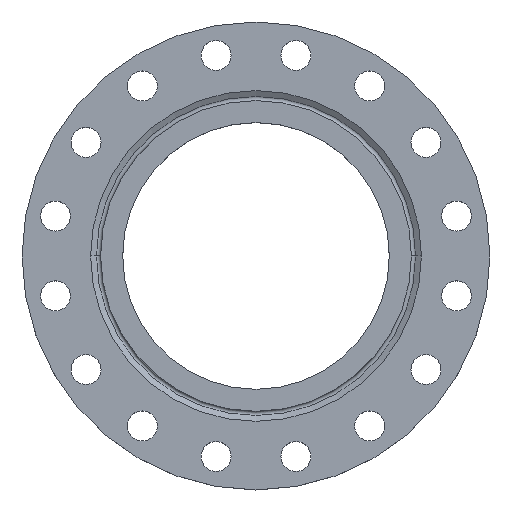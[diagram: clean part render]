
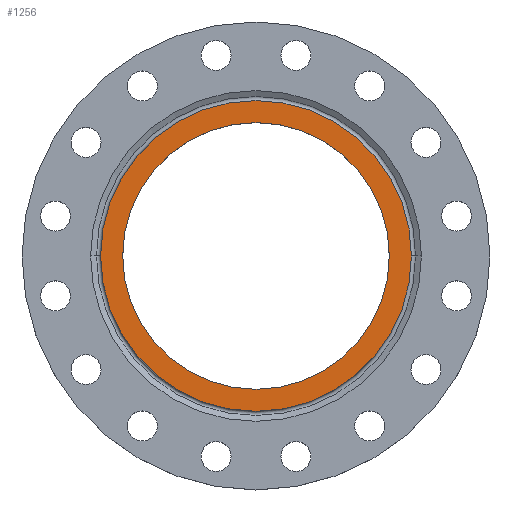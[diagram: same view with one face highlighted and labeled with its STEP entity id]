
A CAD part, top view. The second image highlights one B-rep face of the part: STEP entity #1256.
In plain terms, the highlighted planar face has unit normal (0, 0, 1).
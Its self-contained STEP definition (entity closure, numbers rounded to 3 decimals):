
#6 = CARTESIAN_POINT ( 'NONE',  ( -146.752, 0., 0. ) ) ;
#25 = CIRCLE ( 'NONE', #1102, 146.752 ) ;
#75 = CARTESIAN_POINT ( 'NONE',  ( 171., 0., 0. ) ) ;
#86 = AXIS2_PLACEMENT_3D ( 'NONE', #772, #767, #766 ) ;
#114 = DIRECTION ( 'NONE',  ( -1., 0., 0. ) ) ;
#115 = DIRECTION ( 'NONE',  ( 0., 0., -1. ) ) ;
#117 = CARTESIAN_POINT ( 'NONE',  ( 0., 0., 0. ) ) ;
#174 = EDGE_CURVE ( 'NONE', #1669, #543, #685, .T. ) ;
#217 = CARTESIAN_POINT ( 'NONE',  ( 146.752, 0., 0. ) ) ;
#348 = VERTEX_POINT ( 'NONE', #6 ) ;
#497 = AXIS2_PLACEMENT_3D ( 'NONE', #1540, #1538, #1535 ) ;
#518 = CIRCLE ( 'NONE', #1426, 171. ) ;
#543 = VERTEX_POINT ( 'NONE', #1594 ) ;
#546 = ORIENTED_EDGE ( 'NONE', *, *, #867, .F. ) ;
#561 = ORIENTED_EDGE ( 'NONE', *, *, #1226, .F. ) ;
#582 = EDGE_CURVE ( 'NONE', #1654, #348, #1265, .T. ) ;
#647 = ORIENTED_EDGE ( 'NONE', *, *, #174, .F. ) ;
#653 = ORIENTED_EDGE ( 'NONE', *, *, #582, .F. ) ;
#685 = CIRCLE ( 'NONE', #1383, 171. ) ;
#766 = DIRECTION ( 'NONE',  ( 1., 0., 0. ) ) ;
#767 = DIRECTION ( 'NONE',  ( 0., 0., 1. ) ) ;
#772 = CARTESIAN_POINT ( 'NONE',  ( 0., 0., 0. ) ) ;
#776 = PLANE ( 'NONE',  #86 ) ;
#777 = FACE_OUTER_BOUND ( 'NONE', #1038, .T. ) ;
#782 = FACE_BOUND ( 'NONE', #1040, .T. ) ;
#867 = EDGE_CURVE ( 'NONE', #543, #1669, #518, .T. ) ;
#882 = DIRECTION ( 'NONE',  ( 1., 0., 0. ) ) ;
#884 = DIRECTION ( 'NONE',  ( 0., 0., 1. ) ) ;
#890 = CARTESIAN_POINT ( 'NONE',  ( 0., 0., 0. ) ) ;
#1038 = EDGE_LOOP ( 'NONE', ( #546, #647 ) ) ;
#1040 = EDGE_LOOP ( 'NONE', ( #653, #561 ) ) ;
#1102 = AXIS2_PLACEMENT_3D ( 'NONE', #890, #884, #882 ) ;
#1226 = EDGE_CURVE ( 'NONE', #348, #1654, #25, .T. ) ;
#1256 = ADVANCED_FACE ( 'NONE', ( #782, #777 ), #776, .T. ) ;
#1265 = CIRCLE ( 'NONE', #497, 146.752 ) ;
#1285 = DIRECTION ( 'NONE',  ( -1., 0., 0. ) ) ;
#1286 = DIRECTION ( 'NONE',  ( 0., 0., -1. ) ) ;
#1289 = CARTESIAN_POINT ( 'NONE',  ( 0., 0., 0. ) ) ;
#1383 = AXIS2_PLACEMENT_3D ( 'NONE', #117, #115, #114 ) ;
#1426 = AXIS2_PLACEMENT_3D ( 'NONE', #1289, #1286, #1285 ) ;
#1535 = DIRECTION ( 'NONE',  ( 1., 0., 0. ) ) ;
#1538 = DIRECTION ( 'NONE',  ( 0., 0., 1. ) ) ;
#1540 = CARTESIAN_POINT ( 'NONE',  ( 0., 0., 0. ) ) ;
#1594 = CARTESIAN_POINT ( 'NONE',  ( -171., 0., 0. ) ) ;
#1654 = VERTEX_POINT ( 'NONE', #217 ) ;
#1669 = VERTEX_POINT ( 'NONE', #75 ) ;
